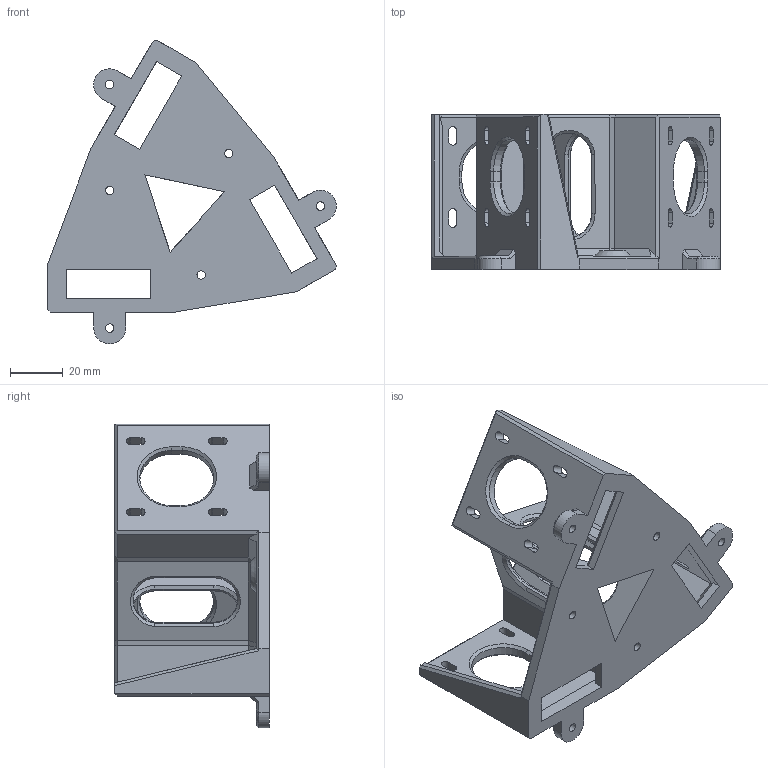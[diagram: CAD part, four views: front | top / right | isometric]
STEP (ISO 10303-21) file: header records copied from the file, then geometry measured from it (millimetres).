
FILE_DESCRIPTION(/* description */ (''),/* implementation_level */ '2;1');
FILE_NAME(/* name */ 'D:\3D печать\Мои проекты\Archy MK 2\STEP\моторама V3.1.stp',/* time_stamp */ '2019-07-18T21:41:16+06:00',/* author */ ('Пользователь'),/* organization */ (''),/* preprocessor_version */ 'ST-DEVELOPER v16.5',/* originating_system */ 'Autodesk Inventor 2017',/* authorisation */ '');
FILE_SCHEMA (('AUTOMOTIVE_DESIGN { 1 0 10303 214 3 1 1 }'));
Length unit declared in the file: millimetre
Products named in the file (1): моторама V3
Bounding box: 109.14 x 58.5 x 114.8 mm (x, y, z)
Volume: 82691.2 mm3; surface area: 42774.9 mm2
Topology: 1 solids, 1 shells, 284 faces, 750 edges, 469 vertices
Faces by surface type: plane 203, cylinder 45, cone 36
Full cylindrical faces by diameter (mm): 3.2 x6
Entity records: 8625 total; most frequent: CARTESIAN_POINT 1475, ORIENTED_EDGE 1452, DIRECTION 1443, EDGE_CURVE 726, LINE 585, VECTOR 585, VERTEX_POINT 459, AXIS2_PLACEMENT_3D 429
